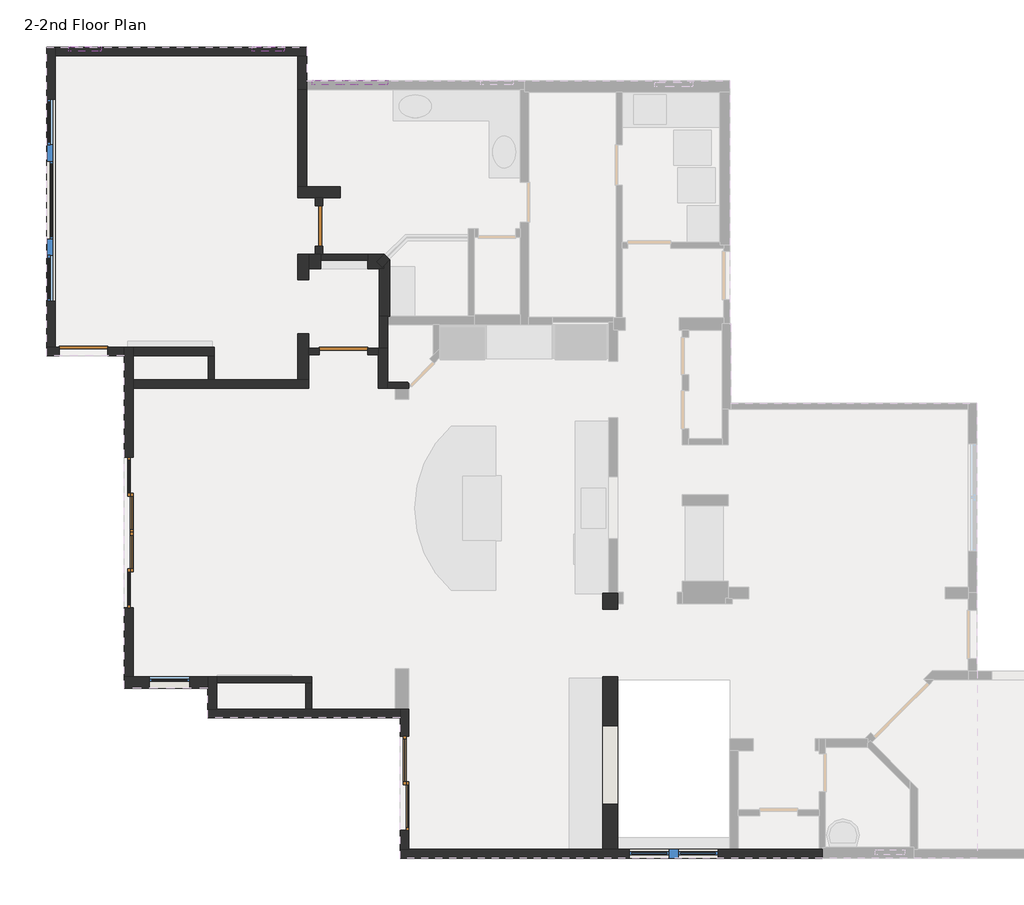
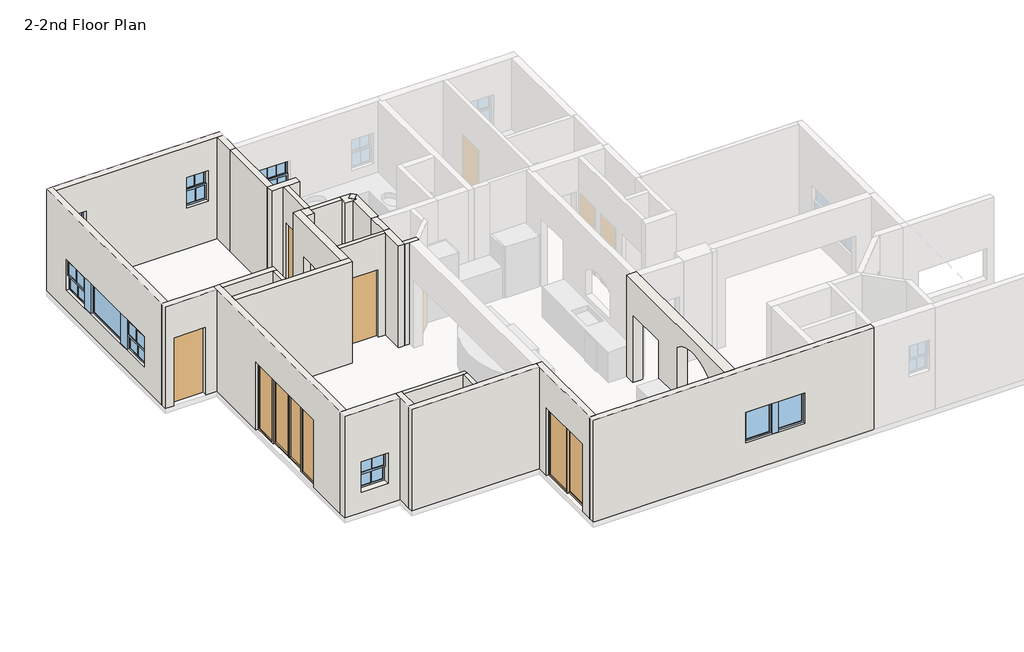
# One storey, part 1 of 3: 29 walls, 6 doors, 6 windows.
"""IFC4 building model written with IfcOpenShell, lengths in millimetres."""

from ifc_helpers import new_model, si_unit, frame, origin, place, context, project, spatial, polyline, circle_curve, outline, extrude, faceted_brep, transform, mapped, element, save
from ifc_brep_helpers import plane_surface, revolved_surface, advanced_brep
from components import door_eaf6c470, door_f2e01136, door_df503d46, door_63f27d76, door_1ca3bb58, door_1fb80474, window_7c996b03, window_ac6b56c1, window_c7df3585, window_351afe28, window_83dc67e6

model = new_model("IFC4")

# Units and contexts
model_context = context("Model", 3, world=origin())
ifc_project = project(units=[si_unit("LENGTHUNIT", "METRE", prefix="MILLI")], contexts=[model_context])

# Site, building, storey
site = spatial("IfcSite", under=ifc_project)
building = spatial("IfcBuilding", under=site)
storey = spatial("IfcBuildingStorey", under=building, Name="2-2nd Floor Plan", Elevation=3348.0)

# Doors
placement = place(None, origin())
door_shape = door_eaf6c470(model_context)
element("IfcDoor", 1, ObjectType="Door_1 : 3'-0\" X 6'-8\"", at=placement, inside=storey, context=model_context, shape_type="MappedRepresentation", body=[
    mapped(door_shape, transform((-1066.8, 9544.05, 3348.0), x_axis=(1.0, 0.0, 0.0), y_axis=(0.0, 1.0, 0.0), z_axis=(0.0, 0.0, 1.0))),
])
door_2_shape = door_f2e01136(model_context)
element("IfcDoor", 2, ObjectType="Door_1 : 3'-0\" X 6'-8\"", at=placement, inside=storey, context=model_context, shape_type="MappedRepresentation", body=[
    mapped(door_2_shape, transform((-5962.65, 9544.05, 3348.0), x_axis=(-1.0, 0.0, 0.0), y_axis=(0.0, -1.0, 0.0), z_axis=(0.0, 0.0, 1.0))),
])
door_3_shape = door_df503d46(model_context)
element("IfcDoor", 3, ObjectType="Door_3 : 4'-8\" X 6'-8\"", at=placement, inside=storey, context=model_context, shape_type="MappedRepresentation", body=[
    mapped(door_3_shape, transform((-5238.75, 6845.3, 3348.0), x_axis=(0.0, 1.0, 0.0), y_axis=(-1.0, 0.0, 0.0), z_axis=(0.0, 0.0, 1.0))),
])
door_4_shape = door_63f27d76(model_context)
element("IfcDoor", 4, ObjectType="Door_3 : 4'-8\" X 6'-8\"", at=placement, inside=storey, context=model_context, shape_type="MappedRepresentation", body=[
    mapped(door_4_shape, transform((-5238.75, 5422.9, 3348.0), x_axis=(0.0, -1.0, 0.0), y_axis=(1.0, 0.0, 0.0), z_axis=(0.0, 0.0, 1.0))),
])
door_5_shape = door_1ca3bb58(model_context)
element("IfcDoor", 5, ObjectType="Door_3 : 5'-10\" X 6'-8\"", at=placement, inside=storey, context=model_context, shape_type="MappedRepresentation", body=[
    mapped(door_5_shape, transform((-44.45, 1409.7, 3348.0), x_axis=(0.0, 1.0, 0.0), y_axis=(-1.0, 0.0, 0.0), z_axis=(0.0, 0.0, 1.0))),
])
door_6_shape = door_1fb80474(model_context)
element("IfcDoor", 6, ObjectType="Door_4 : 2'-6\" X 6'-8\"", at=placement, inside=storey, context=model_context, shape_type="MappedRepresentation", body=[
    mapped(door_6_shape, transform((-1520.825, 11912.4947939, 3348.0), x_axis=(0.0, 1.0, 0.0), y_axis=(-1.0, 0.0, 0.0), z_axis=(0.0, 0.0, 1.0))),
])

# Walls
element("IfcWall", 7, ObjectType="Wall_11\"", at=placement, inside=storey, context=model_context, shape_type="Brep", body=[
    faceted_brep([(-1720.85, 11099.8, 3348.0), (-1498.6, 11099.8, 3348.0), (-1498.6, 11099.8, 6396.0), (-1720.85, 11099.8, 6396.0), (-1720.85, 11379.2, 3348.0), (-1720.85, 11379.2, 6396.0), (-1593.85, 11379.2, 6396.0), (-1498.6, 11379.2, 6396.0), (-1498.6, 11379.2, 3348.0), (-1593.85, 11379.2, 3348.0), (-1498.6, 11264.9, 3348.0), (-1498.6, 11264.9, 6396.0)], [[[0, 1, 2, 3]], [[4, 5, 6, 7, 8, 9]], [[1, 0, 4, 9, 8, 10]], [[2, 1, 10, 8, 7, 11]], [[3, 2, 11, 7, 6, 5]], [[0, 3, 5, 4]]]),
])
element("IfcWall", 8, ObjectType="Wall_11\"", at=placement, inside=storey, context=model_context, shape_type="AdvancedBrep", body=[
    advanced_brep(
    [(3822.7, 165.1, 6396.0), (3822.7, 4984.6447939, 6396.0), (3822.7, 4984.6447939, 3348.0), (3822.7, 4686.1947939, 3348.0), (3822.7, 4686.1947939, 5380.0), (3822.7, 3416.1947939, 5380.0), (3822.7, 3416.1947939, 3348.0), (3822.7, 165.1, 3348.0), (3822.7, 1016.0, 5735.6), (3822.7, 1016.0, 4414.8), (3822.7, 2489.2, 4414.8), (3822.7, 2489.2, 5735.6), (4102.1, 4984.6447939, 6396.0), (4102.1, 4787.7947939, 6396.0), (4102.1, 165.1, 6396.0), (4102.1, 165.1, 3348.0), (4102.1, 3416.1947939, 3348.0), (4102.1, 3416.1947939, 5380.0), (4102.1, 4686.1947939, 5380.0), (4102.1, 4686.1947939, 3348.0), (4102.1, 4787.7947939, 3348.0), (4102.1, 4984.6447939, 3348.0), (4102.1, 1016.0, 4414.8), (4102.1, 1016.0, 5735.6), (4102.1, 2489.2, 5735.6), (4102.1, 2489.2, 4414.8), (3937.0, 4984.6447939, 3348.0), (3937.0, 4984.6447939, 6396.0)],
    [
        (0, 1),
        (1, 2),
        (2, 3),
        (3, 4),
        (4, 5),
        (5, 6),
        (6, 7),
        (7, 0),
        (8, 9),
        (9, 10),
        (10, 11),
        (11, 8, circle_curve(frame((3822.7, 1752.6, 4916.8562565), z_axis=(1.0, 0.0, 0.0), x_axis=(0.0, -1.0, 0.0)), 1101.3268713)),
        (12, 13),
        (13, 14),
        (14, 15),
        (15, 16),
        (16, 17),
        (17, 18),
        (18, 19),
        (19, 20),
        (20, 21),
        (21, 12),
        (22, 23),
        (23, 24, circle_curve(frame((4102.1, 1752.6, 4916.8562565), z_axis=(-1.0, 0.0, 0.0), x_axis=(0.0, -1.0, 0.0)), 1101.3268713)),
        (24, 25),
        (25, 22),
        (15, 7),
        (6, 16),
        (2, 26),
        (26, 21),
        (19, 3),
        (0, 14),
        (12, 27),
        (27, 1),
        (18, 4),
        (5, 17),
        (8, 23),
        (22, 9),
        (11, 24),
        (10, 25),
    ],
    [
        plane_surface(frame((3822.7, 5003.6947939, 3348.0), z_axis=(-1.0, 0.0, 0.0), x_axis=(0.0, -1.0, 0.0))),
        plane_surface(frame((4102.1, 5003.6947939, 3348.0), z_axis=(1.0, 0.0, 0.0), x_axis=(0.0, 1.0, 0.0))),
        plane_surface(frame((3822.7, 4984.6447939, 3348.0), z_axis=(0.0, 0.0, -1.0), x_axis=(1.0, 0.0, 0.0))),
        plane_surface(frame((3822.7, 82.55, 6396.0), z_axis=(0.0, 0.0, 1.0), x_axis=(1.0, 0.0, 0.0))),
        plane_surface(frame((3822.7, 4984.6447939, 6396.0), z_axis=(0.0, 1.0, 0.0), x_axis=(1.0, 0.0, 0.0))),
        plane_surface(frame((7693.6373882, 165.1, 3348.0), z_axis=(0.0, -1.0, 0.0), x_axis=(-1.0, 0.0, 0.0))),
        plane_surface(frame((3822.7, 4686.1947939, 3348.0), z_axis=(0.0, -1.0, 0.0), x_axis=(1.0, 0.0, 0.0))),
        plane_surface(frame((3822.7, 3416.1947939, 5380.0), z_axis=(0.0, 1.0, 0.0), x_axis=(1.0, 0.0, 0.0))),
        plane_surface(frame((3822.7, 1016.0, 4414.8), z_axis=(0.0, 1.0, 0.0), x_axis=(1.0, 0.0, 0.0))),
        revolved_surface(polyline([(3822.7, 651.2731286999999, 4916.8562565), (4102.1, 651.2731286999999, 4916.8562565)]), (4102.1, 1752.6, 4916.8562565), (-1.0, 0.0, 0.0)),
        plane_surface(frame((3822.7, 2489.2, 5735.6), z_axis=(0.0, -1.0, 0.0), x_axis=(1.0, 0.0, 0.0))),
        plane_surface(frame((3822.7, 2489.2, 4414.8), z_axis=(0.0, 0.0, 1.0), x_axis=(1.0, 0.0, 0.0))),
        plane_surface(frame((3822.7, 4686.1947939, 5380.0), z_axis=(0.0, 0.0, -1.0), x_axis=(1.0, 0.0, 0.0))),
    ],
    [
        (0, [[1, 2, 3, 4, 5, 6, 7, 8], [9, 10, 11, 12]]),
        (1, [[13, 14, 15, 16, 17, 18, 19, 20, 21, 22], [23, 24, 25, 26]]),
        (2, [[27, -7, 28, -16]]),
        (2, [[29, 30, -21, -20, 31, -3]]),
        (3, [[-1, 32, -14, -13, 33, 34]]),
        (4, [[-2, -34, -33, -22, -30, -29]]),
        (5, [[-8, -27, -15, -32]]),
        (6, [[-4, -31, -19, 35]]),
        (7, [[-6, 36, -17, -28]]),
        (8, [[37, -23, 38, -9]]),
        (9, [[-37, -12, 39, -24]]),
        (10, [[-39, -11, 40, -25]]),
        (11, [[-38, -26, -40, -10]]),
        (12, [[-5, -35, -18, -36]]),
    ],
),
])
element("IfcWall", 9, ObjectType="Wall_11\"", at=placement, inside=storey, context=model_context, shape_type="Brep", body=[
    faceted_brep([(-609.6, 11099.8, 3348.0), (-393.7, 11099.8, 3348.0), (-298.45, 11099.8, 3348.0), (-298.45, 11099.8, 6396.0), (-393.7, 11099.8, 6396.0), (-609.6, 11099.8, 6396.0), (-298.45, 11379.2, 3348.0), (-609.6, 11379.2, 3348.0), (-609.6, 11379.2, 6396.0), (-298.45, 11379.2, 6396.0), (-609.6, 11264.9, 3348.0), (-442.1340979, 11235.5159021, 3348.0), (-334.1840979, 11127.5659021, 3348.0), (-298.45, 11163.3, 3348.0), (-298.45, 11163.3, 6396.0), (-334.1840979, 11127.5659021, 6396.0), (-442.1340979, 11235.5159021, 6396.0), (-609.6, 11264.9, 6396.0)], [[[0, 1, 2, 3, 4, 5]], [[6, 7, 8, 9]], [[2, 1, 0, 10, 7, 6, 11, 12, 13]], [[3, 2, 13, 14]], [[5, 4, 3, 14, 15, 16, 9, 8, 17]], [[0, 5, 17, 8, 7, 10]], [[15, 12, 11, 16]], [[12, 15, 14, 13]], [[16, 11, 6, 9]]]),
])
element("IfcWall", 10, ObjectType="Wall_4.5\"", at=placement, inside=storey, context=model_context, shape_type="Brep", body=[
    faceted_brep([(-3454.4, 3302.0, 3348.0), (-1778.0, 3302.0, 3348.0), (-1663.7, 3302.0, 3348.0), (-1663.7, 3302.0, 6396.0), (-1778.0, 3302.0, 6396.0), (-3454.4, 3302.0, 6396.0), (-3454.4, 3416.3, 3348.0), (-3454.4, 3416.3, 6396.0), (-1663.7, 3416.3, 6396.0), (-1663.7, 3416.3, 3348.0)], [[[0, 1, 2, 3, 4, 5]], [[6, 7, 8, 9]], [[2, 1, 0, 6, 9]], [[5, 4, 3, 8, 7]], [[0, 5, 7, 6]], [[3, 2, 9, 8]]]),
])
element("IfcWall", 11, ObjectType="Wall_4.5\"", at=placement, inside=storey, context=model_context, shape_type="SweptSolid", body=[
    extrude(outline(polyline([(-1778.0, 2806.7), (-1778.0, 3302.0), (-1663.7, 3302.0), (-1663.7, 2806.7), (-1778.0, 2806.7)])), frame((0.0, 0.0, 3348.0), z_axis=(0.0, 0.0, 1.0), x_axis=(1.0, 0.0, 0.0)), (0.0, 0.0, 1.0), 3048.0),
])
element("IfcWall", 12, ObjectType="Wall_4.5\"", at=placement, inside=storey, context=model_context, shape_type="SweptSolid", body=[
    extrude(outline(polyline([(-3613.15, 9017.0), (-3613.15, 9461.5), (-3498.85, 9461.5), (-3498.85, 9017.0), (-3613.15, 9017.0)])), frame((0.0, 0.0, 3348.0), z_axis=(0.0, 0.0, 1.0), x_axis=(1.0, 0.0, 0.0)), (0.0, 0.0, 1.0), 3048.0),
])
element("IfcWall", 13, ObjectType="Wall_4.5\"", at=placement, inside=storey, context=model_context, shape_type="Brep", body=[
    faceted_brep([(-228.6, 8851.9, 3348.0), (-88.9, 8851.9, 3348.0), (165.1, 8851.9, 3348.0), (165.1, 8851.9, 6396.0), (-88.9, 8851.9, 6396.0), (-228.6, 8851.9, 6396.0), (-228.6, 8966.2, 6396.0), (117.7553898, 8966.2, 6396.0), (165.1, 8966.2, 6396.0), (165.1, 8966.2, 5380.0), (140.6573755, 8966.2, 5380.0), (140.6573755, 8966.2, 3348.0), (117.7553898, 8966.2, 3348.0), (-228.6, 8966.2, 3348.0), (165.1, 8941.7573755, 3348.0), (165.1, 8941.7573755, 5380.0)], [[[0, 1, 2, 3, 4, 5]], [[6, 7, 8, 9, 10, 11, 12, 13]], [[2, 1, 0, 13, 12, 11, 14]], [[5, 4, 3, 8, 7, 6]], [[0, 5, 6, 13]], [[3, 2, 14, 15, 9, 8]], [[15, 10, 9]], [[10, 15, 14, 11]]]),
])
element("IfcWall", 14, ObjectType="Wall_4.5\"", at=placement, inside=storey, context=model_context, shape_type="SweptSolid", body=[
    extrude(outline(polyline([(5380.0, -609.6), (3348.0, -609.6), (3348.0, -406.4), (6396.0, -406.4), (6396.0, -1720.85), (3348.0, -1720.85), (3348.0, -1524.0), (5380.0, -1524.0), (5380.0, -609.6)])), frame((0.0, 9486.9, 0.0), z_axis=(0.0, 1.0, 0.0), x_axis=(0.0, 0.0, 1.0)), (0.0, 0.0, 1.0), 114.3),
])
element("IfcWall", 15, ObjectType="Wall_4.5\"", at=placement, inside=storey, context=model_context, shape_type="Brep", body=[
    faceted_brep([(-1498.6, 11264.9, 3348.0), (-609.6, 11264.9, 3348.0), (-609.6, 11264.9, 6396.0), (-1498.6, 11264.9, 6396.0), (-1498.6, 11379.2, 3348.0), (-1498.6, 11379.2, 6396.0), (-1454.15, 11379.2, 6396.0), (-609.6, 11379.2, 6396.0), (-609.6, 11379.2, 3348.0), (-1454.15, 11379.2, 3348.0)], [[[0, 1, 2, 3]], [[4, 5, 6, 7, 8, 9]], [[1, 0, 4, 9, 8]], [[2, 1, 8, 7]], [[3, 2, 7, 6, 5]], [[0, 3, 5, 4]]]),
])
element("IfcWall", 16, ObjectType="Wall_5.5\"", at=placement, inside=storey, context=model_context, shape_type="Brep", body=[
    faceted_brep([(-1454.15, 12445.8947939, 6396.0), (-1454.15, 11379.2, 6396.0), (-1454.15, 11379.2, 3348.0), (-1454.15, 11531.4947939, 3348.0), (-1454.15, 11531.4947939, 5405.4), (-1454.15, 12293.4947939, 5405.4), (-1454.15, 12293.4947939, 3348.0), (-1454.15, 12445.8947939, 3348.0), (-1593.85, 11379.2, 6396.0), (-1593.85, 12445.8947939, 6396.0), (-1593.85, 12445.8947939, 3348.0), (-1593.85, 12293.4947939, 3348.0), (-1593.85, 12293.4947939, 5405.4), (-1593.85, 11531.4947939, 5405.4), (-1593.85, 11531.4947939, 3348.0), (-1593.85, 11379.2, 3348.0), (-1498.6, 11379.2, 3348.0), (-1498.6, 11379.2, 6396.0)], [[[0, 1, 2, 3, 4, 5, 6, 7]], [[8, 9, 10, 11, 12, 13, 14, 15]], [[10, 7, 6, 11]], [[2, 16, 15, 14, 3]], [[1, 0, 9, 8, 17]], [[2, 1, 17, 8, 15, 16]], [[0, 7, 10, 9]], [[5, 12, 11, 6]], [[12, 5, 4, 13]], [[13, 4, 3, 14]]]),
])
element("IfcWall", 17, ObjectType="Wall_6.5\"", at=placement, inside=storey, context=model_context, shape_type="Brep", body=[
    faceted_brep([(7956.55, 165.1, 3348.0), (7899.4, 165.1, 3348.0), (6375.4, 165.1, 3348.0), (6210.3, 165.1, 3348.0), (4102.1, 165.1, 3348.0), (3822.7, 165.1, 3348.0), (165.1, 165.1, 3348.0), (0.0, 165.1, 3348.0), (0.0, 165.1, 6396.0), (165.1, 165.1, 6396.0), (3822.7, 165.1, 6396.0), (4102.1, 165.1, 6396.0), (6210.3, 165.1, 6396.0), (6375.4, 165.1, 6396.0), (7899.4, 165.1, 6396.0), (7956.55, 165.1, 6396.0), (5994.4, 165.1, 5126.0), (4318.0, 165.1, 5126.0), (4318.0, 165.1, 4211.6), (5994.4, 165.1, 4211.6), (7956.55, 0.0, 3348.0), (7956.55, 0.0, 6396.0), (0.0, 0.0, 6396.0), (0.0, 0.0, 3348.0), (5994.4, 0.0, 5126.0), (5994.4, 0.0, 4211.6), (4318.0, 0.0, 4211.6), (4318.0, 0.0, 5126.0)], [[[0, 1, 2, 3, 4, 5, 6, 7, 8, 9, 10, 11, 12, 13, 14, 15], [16, 17, 18, 19]], [[20, 21, 22, 23], [24, 25, 26, 27]], [[7, 6, 5, 4, 3, 2, 1, 0, 20, 23]], [[15, 14, 13, 12, 11, 10, 9, 8, 22, 21]], [[0, 15, 21, 20]], [[8, 7, 23, 22]], [[25, 24, 16, 19]], [[26, 25, 19, 18]], [[27, 26, 18, 17]], [[24, 27, 17, 16]]]),
])
element("IfcWall", 18, ObjectType="Wall_6.5\"", at=placement, inside=storey, context=model_context, shape_type="Brep", body=[
    faceted_brep([(165.1, 2298.7, 5380.0), (165.1, 2298.7, 3348.0), (165.1, 2806.7, 3348.0), (165.1, 2806.7, 6396.0), (165.1, 165.1, 6396.0), (165.1, 165.1, 3348.0), (165.1, 520.7, 3348.0), (165.1, 520.7, 5380.0), (0.0, 2806.7, 3348.0), (0.0, 2641.6, 3348.0), (0.0, 2298.7, 3348.0), (0.0, 2298.7, 5380.0), (0.0, 520.7, 5380.0), (0.0, 520.7, 3348.0), (0.0, 165.1, 3348.0), (0.0, 165.1, 6396.0), (0.0, 2641.6, 6396.0), (0.0, 2806.7, 6396.0)], [[[0, 1, 2, 3, 4, 5, 6, 7]], [[8, 9, 10, 11, 12, 13, 14, 15, 16, 17]], [[6, 5, 14, 13]], [[2, 1, 10, 9, 8]], [[4, 3, 17, 16, 15]], [[5, 4, 15, 14]], [[3, 2, 8, 17]], [[13, 12, 7, 6]], [[11, 10, 1, 0]], [[12, 11, 0, 7]]]),
])
element("IfcWall", 19, ObjectType="Wall_6.5\"", at=placement, inside=storey, context=model_context, shape_type="Brep", body=[
    faceted_brep([(0.0, 2806.7, 3348.0), (-88.9, 2806.7, 3348.0), (-1663.7, 2806.7, 3348.0), (-1778.0, 2806.7, 3348.0), (-3454.4, 2806.7, 3348.0), (-3619.5, 2806.7, 3348.0), (-3619.5, 2806.7, 6396.0), (-3454.4, 2806.7, 6396.0), (-1778.0, 2806.7, 6396.0), (-1663.7, 2806.7, 6396.0), (-88.9, 2806.7, 6396.0), (0.0, 2806.7, 6396.0), (0.0, 2641.6, 3348.0), (0.0, 2641.6, 6396.0), (-3619.5, 2641.6, 6396.0), (-3619.5, 2641.6, 3348.0)], [[[0, 1, 2, 3, 4, 5, 6, 7, 8, 9, 10, 11]], [[12, 13, 14, 15]], [[5, 4, 3, 2, 1, 0, 12, 15]], [[11, 10, 9, 8, 7, 6, 14, 13]], [[0, 11, 13, 12]], [[6, 5, 15, 14]]]),
])
element("IfcWall", 20, ObjectType="Wall_6.5\"", at=placement, inside=storey, context=model_context, shape_type="Brep", body=[
    faceted_brep([(-3454.4, 2806.7, 3348.0), (-3454.4, 3302.0, 3348.0), (-3454.4, 3416.3, 3348.0), (-3454.4, 3416.3, 6396.0), (-3454.4, 3302.0, 6396.0), (-3454.4, 2806.7, 6396.0), (-3619.5, 2806.7, 3348.0), (-3619.5, 2806.7, 6396.0), (-3619.5, 3200.4, 6396.0), (-3619.5, 3416.3, 6396.0), (-3619.5, 3416.3, 3348.0), (-3619.5, 3200.4, 3348.0)], [[[0, 1, 2, 3, 4, 5]], [[6, 7, 8, 9, 10, 11]], [[2, 1, 0, 6, 11, 10]], [[5, 4, 3, 9, 8, 7]], [[0, 5, 7, 6]], [[3, 2, 10, 9]]]),
])
element("IfcWall", 21, ObjectType="Wall_6.5\"", at=placement, inside=storey, context=model_context, shape_type="Brep", body=[
    faceted_brep([(-5029.2, 9626.6, 6396.0), (-5029.2, 9461.5, 6396.0), (-5029.2, 9017.0, 6396.0), (-5029.2, 8851.9, 6396.0), (-5029.2, 3416.3, 6396.0), (-5029.2, 3416.3, 3348.0), (-5029.2, 4711.7, 3348.0), (-5029.2, 4711.7, 5380.0), (-5029.2, 7556.5, 5380.0), (-5029.2, 7556.5, 3348.0), (-5029.2, 8851.9, 3348.0), (-5029.2, 9017.0, 3348.0), (-5029.2, 9461.5, 3348.0), (-5029.2, 9626.6, 3348.0), (-5194.3, 3416.3, 6396.0), (-5194.3, 9461.5, 6396.0), (-5194.3, 9626.6, 6396.0), (-5194.3, 9626.6, 3348.0), (-5194.3, 9461.5, 3348.0), (-5194.3, 7556.5, 3348.0), (-5194.3, 7556.5, 5380.0), (-5194.3, 4711.7, 5380.0), (-5194.3, 4711.7, 3348.0), (-5194.3, 3416.3, 3348.0)], [[[0, 1, 2, 3, 4, 5, 6, 7, 8, 9, 10, 11, 12, 13]], [[14, 15, 16, 17, 18, 19, 20, 21, 22, 23]], [[5, 23, 22, 6]], [[17, 13, 12, 11, 10, 9, 19, 18]], [[4, 3, 2, 1, 0, 16, 15, 14]], [[5, 4, 14, 23]], [[0, 13, 17, 16]], [[8, 20, 19, 9]], [[20, 8, 7, 21]], [[21, 7, 6, 22]]]),
])
element("IfcWall", 22, ObjectType="Wall_6.5\"", at=placement, inside=storey, context=model_context, shape_type="Brep", body=[
    faceted_brep([(-6419.85, 9626.6, 5380.0), (-6419.85, 9626.6, 3348.0), (-6496.05, 9626.6, 3348.0), (-6661.15, 9626.6, 3348.0), (-6661.15, 9626.6, 6396.0), (-6496.05, 9626.6, 6396.0), (-5194.3, 9626.6, 6396.0), (-5194.3, 9626.6, 3348.0), (-5505.45, 9626.6, 3348.0), (-5505.45, 9626.6, 5380.0), (-6661.15, 9461.5, 3348.0), (-6419.85, 9461.5, 3348.0), (-6419.85, 9461.5, 5380.0), (-5505.45, 9461.5, 5380.0), (-5505.45, 9461.5, 3348.0), (-5194.3, 9461.5, 3348.0), (-5194.3, 9461.5, 6396.0), (-6661.15, 9461.5, 6396.0)], [[[0, 1, 2, 3, 4, 5, 6, 7, 8, 9]], [[10, 11, 12, 13, 14, 15, 16, 17]], [[8, 7, 15, 14]], [[3, 2, 1, 11, 10]], [[6, 5, 4, 17, 16]], [[7, 6, 16, 15]], [[4, 3, 10, 17]], [[12, 11, 1, 0]], [[13, 12, 0, 9]], [[14, 13, 9, 8]]]),
])
element("IfcWall", 23, ObjectType="Wall_6.5\"", at=placement, inside=storey, context=model_context, shape_type="Brep", body=[
    faceted_brep([(-6496.05, 9626.6, 3348.0), (-6496.05, 15113.0, 3348.0), (-6496.05, 15278.1, 3348.0), (-6496.05, 15278.1, 6396.0), (-6496.05, 15113.0, 6396.0), (-6496.05, 9626.6, 6396.0), (-6496.05, 10490.2, 4878.35), (-6496.05, 14300.2, 4878.35), (-6496.05, 14300.2, 3963.95), (-6496.05, 10490.2, 3963.95), (-6661.15, 9626.6, 3348.0), (-6661.15, 9626.6, 6396.0), (-6661.15, 15278.1, 6396.0), (-6661.15, 15278.1, 3348.0), (-6661.15, 10490.2, 4878.35), (-6661.15, 10490.2, 3963.95), (-6661.15, 14300.2, 3963.95), (-6661.15, 14300.2, 4878.35)], [[[0, 1, 2, 3, 4, 5], [6, 7, 8, 9]], [[10, 11, 12, 13], [14, 15, 16, 17]], [[2, 1, 0, 10, 13]], [[5, 4, 3, 12, 11]], [[0, 5, 11, 10]], [[3, 2, 13, 12]], [[15, 14, 6, 9]], [[16, 15, 9, 8]], [[17, 16, 8, 7]], [[14, 17, 7, 6]]]),
])
element("IfcWall", 24, ObjectType="Wall_6.5\"", at=placement, inside=storey, context=model_context, shape_type="Brep", body=[
    faceted_brep([(-6496.05, 15113.0, 3348.0), (-1924.05, 15113.0, 3348.0), (-1758.95, 15113.0, 3348.0), (-1758.95, 15113.0, 6396.0), (-1924.05, 15113.0, 6396.0), (-6496.05, 15113.0, 6396.0), (-2787.65, 15113.0, 5481.6), (-2178.05, 15113.0, 5481.6), (-2178.05, 15113.0, 4567.2), (-2787.65, 15113.0, 4567.2), (-6242.05, 15113.0, 5481.6), (-5632.45, 15113.0, 5481.6), (-5632.45, 15113.0, 4567.2), (-6242.05, 15113.0, 4567.2), (-6496.05, 15278.1, 3348.0), (-6496.05, 15278.1, 6396.0), (-1758.95, 15278.1, 6396.0), (-1758.95, 15278.1, 3348.0), (-2787.65, 15278.1, 5481.6), (-2787.65, 15278.1, 4567.2), (-2178.05, 15278.1, 4567.2), (-2178.05, 15278.1, 5481.6), (-6242.05, 15278.1, 5481.6), (-6242.05, 15278.1, 4567.2), (-5632.45, 15278.1, 4567.2), (-5632.45, 15278.1, 5481.6)], [[[0, 1, 2, 3, 4, 5], [6, 7, 8, 9], [10, 11, 12, 13]], [[14, 15, 16, 17], [18, 19, 20, 21], [22, 23, 24, 25]], [[2, 1, 0, 14, 17]], [[5, 4, 3, 16, 15]], [[0, 5, 15, 14]], [[3, 2, 17, 16]], [[19, 18, 6, 9]], [[20, 19, 9, 8]], [[21, 20, 8, 7]], [[18, 21, 7, 6]], [[23, 22, 10, 13]], [[24, 23, 13, 12]], [[25, 24, 12, 11]], [[22, 25, 11, 10]]]),
])
element("IfcWall", 25, ObjectType="Wall_6.5\"", at=placement, inside=storey, context=model_context, shape_type="Brep", body=[
    faceted_brep([(-1924.05, 15113.0, 3348.0), (-1924.05, 14477.8947939, 3348.0), (-1924.05, 14477.8947939, 6396.0), (-1924.05, 15113.0, 6396.0), (-1758.95, 15113.0, 3348.0), (-1758.95, 15113.0, 6396.0), (-1758.95, 14642.9947939, 6396.0), (-1758.95, 14477.8947939, 6396.0), (-1758.95, 14477.8947939, 3348.0), (-1758.95, 14642.9947939, 3348.0)], [[[0, 1, 2, 3]], [[4, 5, 6, 7, 8, 9]], [[1, 0, 4, 9, 8]], [[3, 2, 7, 6, 5]], [[0, 3, 5, 4]], [[2, 1, 8, 7]]]),
])
element("IfcWall", 26, ObjectType="Wall_6.5\"", at=placement, inside=storey, context=model_context, shape_type="Brep", body=[
    faceted_brep([(-5029.2, 9461.5, 3348.0), (-3613.15, 9461.5, 3348.0), (-3498.85, 9461.5, 3348.0), (-3498.85, 9461.5, 6396.0), (-3613.15, 9461.5, 6396.0), (-5029.2, 9461.5, 6396.0), (-5029.2, 9626.6, 3348.0), (-5029.2, 9626.6, 6396.0), (-3498.85, 9626.6, 6396.0), (-3498.85, 9626.6, 3348.0)], [[[0, 1, 2, 3, 4, 5]], [[6, 7, 8, 9]], [[2, 1, 0, 6, 9]], [[5, 4, 3, 8, 7]], [[0, 5, 7, 6]], [[3, 2, 9, 8]]]),
])
element("IfcWall", 27, ObjectType="Wall_6.5\"", at=placement, inside=storey, context=model_context, shape_type="Brep", body=[
    faceted_brep([(-5029.2, 8851.9, 3348.0), (-1720.85, 8851.9, 3348.0), (-1720.85, 8851.9, 6396.0), (-5029.2, 8851.9, 6396.0), (-5029.2, 9017.0, 3348.0), (-5029.2, 9017.0, 6396.0), (-3613.15, 9017.0, 6396.0), (-3498.85, 9017.0, 6396.0), (-1924.05, 9017.0, 6396.0), (-1720.85, 9017.0, 6396.0), (-1720.85, 9017.0, 3348.0), (-1924.05, 9017.0, 3348.0), (-3498.85, 9017.0, 3348.0), (-3613.15, 9017.0, 3348.0)], [[[0, 1, 2, 3]], [[4, 5, 6, 7, 8, 9, 10, 11, 12, 13]], [[1, 0, 4, 13, 12, 11, 10]], [[3, 2, 9, 8, 7, 6, 5]], [[0, 3, 5, 4]], [[2, 1, 10, 9]]]),
])
element("IfcWall", 28, ObjectType="Wall_6.5\"", at=placement, inside=storey, context=model_context, shape_type="SweptSolid", body=[
    extrude(outline(polyline([(-1758.95, 14477.8947939), (-1758.95, 12649.0947939), (-1924.05, 12649.0947939), (-1924.05, 14477.8947939), (-1758.95, 14477.8947939)])), frame((0.0, 0.0, 3348.0), z_axis=(0.0, 0.0, 1.0), x_axis=(1.0, 0.0, 0.0)), (0.0, 0.0, 1.0), 3048.0),
])
element("IfcWall", 29, ObjectType="Wall_6.5\"", at=placement, inside=storey, context=model_context, shape_type="Brep", body=[
    faceted_brep([(-228.6, 9601.2, 3348.0), (-228.6, 10045.7, 3348.0), (-228.6, 10210.8, 3348.0), (-228.6, 10210.8, 6396.0), (-228.6, 10045.7, 6396.0), (-228.6, 9601.2, 6396.0), (-393.7, 9601.2, 3348.0), (-393.7, 9601.2, 6396.0), (-393.7, 10210.8, 6396.0), (-393.7, 10210.8, 3348.0)], [[[0, 1, 2, 3, 4, 5]], [[6, 7, 8, 9]], [[2, 1, 0, 6, 9]], [[5, 4, 3, 8, 7]], [[0, 5, 7, 6]], [[3, 2, 9, 8]]]),
])
element("IfcWall", 30, ObjectType="Wall_7\"", at=placement, inside=storey, context=model_context, shape_type="Brep", body=[
    faceted_brep([(-228.6, 8851.9, 3348.0), (-228.6, 8966.2, 3348.0), (-228.6, 9601.2, 3348.0), (-228.6, 9601.2, 6396.0), (-228.6, 8966.2, 6396.0), (-228.6, 8851.9, 6396.0), (-406.4, 8851.9, 3348.0), (-406.4, 8851.9, 6396.0), (-406.4, 9486.9, 6396.0), (-406.4, 9601.2, 6396.0), (-406.4, 9601.2, 3348.0), (-406.4, 9486.9, 3348.0), (-393.7, 9601.2, 3348.0), (-393.7, 9601.2, 6396.0)], [[[0, 1, 2, 3, 4, 5]], [[6, 7, 8, 9, 10, 11]], [[2, 1, 0, 6, 11, 10, 12]], [[5, 4, 3, 13, 9, 8, 7]], [[0, 5, 7, 6]], [[3, 2, 12, 10, 9, 13]]]),
])
element("IfcWall", 31, ObjectType="Wall_8\"", at=placement, inside=storey, context=model_context, shape_type="Brep", body=[
    faceted_brep([(-1720.85, 9017.0, 3348.0), (-1720.85, 9486.9, 3348.0), (-1720.85, 9601.2, 3348.0), (-1720.85, 9880.6, 3348.0), (-1720.85, 9880.6, 5380.0), (-1720.85, 10896.6, 5380.0), (-1720.85, 10896.6, 3348.0), (-1720.85, 11099.8, 3348.0), (-1720.85, 11379.2, 3348.0), (-1720.85, 11379.2, 6396.0), (-1720.85, 11099.8, 6396.0), (-1720.85, 9601.2, 6396.0), (-1720.85, 9486.9, 6396.0), (-1720.85, 9017.0, 6396.0), (-1924.05, 9880.6, 5380.0), (-1924.05, 9880.6, 3348.0), (-1924.05, 9017.0, 3348.0), (-1924.05, 9017.0, 6396.0), (-1924.05, 11379.2, 6396.0), (-1924.05, 11379.2, 3348.0), (-1924.05, 10896.6, 3348.0), (-1924.05, 10896.6, 5380.0)], [[[0, 1, 2, 3, 4, 5, 6, 7, 8, 9, 10, 11, 12, 13]], [[14, 15, 16, 17, 18, 19, 20, 21]], [[0, 13, 17, 16]], [[9, 8, 19, 18]], [[20, 19, 8, 7, 6]], [[16, 15, 3, 2, 1, 0]], [[13, 12, 11, 10, 9, 18, 17]], [[4, 3, 15, 14]], [[5, 4, 14, 21]], [[6, 5, 21, 20]]]),
])
element("IfcWall", 32, ObjectType="Wall_8\"", at=placement, inside=storey, context=model_context, shape_type="Brep", body=[
    faceted_brep([(-1123.95, 12649.0947939, 3348.0), (-1758.95, 12649.0947939, 3348.0), (-1924.05, 12649.0947939, 3348.0), (-1924.05, 12649.0947939, 6396.0), (-1758.95, 12649.0947939, 6396.0), (-1123.95, 12649.0947939, 6396.0), (-1123.95, 12445.8947939, 3348.0), (-1123.95, 12445.8947939, 6396.0), (-1454.15, 12445.8947939, 6396.0), (-1593.85, 12445.8947939, 6396.0), (-1924.05, 12445.8947939, 6396.0), (-1924.05, 12445.8947939, 3348.0), (-1593.85, 12445.8947939, 3348.0), (-1454.15, 12445.8947939, 3348.0)], [[[0, 1, 2, 3, 4, 5]], [[6, 7, 8, 9, 10, 11, 12, 13]], [[2, 1, 0, 6, 13, 12, 11]], [[5, 4, 3, 10, 9, 8, 7]], [[0, 5, 7, 6]], [[3, 2, 11, 10]]]),
])
element("IfcWall", 33, ObjectType="Wall_8\"", at=placement, inside=storey, context=model_context, shape_type="Brep", body=[
    faceted_brep([(-442.1340979, 11235.5159021, 3348.0), (-334.1840979, 11127.5659021, 3348.0), (-334.1840979, 11127.5659021, 6396.0), (-442.1340979, 11235.5159021, 6396.0), (-298.45, 11379.2, 3348.0), (-298.45, 11379.2, 6396.0), (-190.5, 11271.25, 6396.0), (-190.5, 11271.25, 3348.0), (-298.45, 11163.3, 3348.0), (-298.45, 11163.3, 6396.0)], [[[0, 1, 2, 3]], [[4, 5, 6, 7]], [[1, 0, 4, 7, 8]], [[2, 1, 8, 7, 6, 9]], [[3, 2, 9, 6, 5]], [[0, 3, 5, 4]]]),
])
element("IfcWall", 34, ObjectType="Wall_8\"", at=placement, inside=storey, context=model_context, shape_type="Brep", body=[
    faceted_brep([(-393.7, 10210.8, 3348.0), (-393.7, 10210.8, 6396.0), (-393.7, 11099.8, 6396.0), (-393.7, 11099.8, 3348.0), (-190.5, 10210.8, 3348.0), (-190.5, 11271.25, 3348.0), (-190.5, 11271.25, 6396.0), (-190.5, 10210.8, 6396.0), (-228.6, 10210.8, 3348.0), (-298.45, 11099.8, 3348.0), (-298.45, 11163.3, 3348.0), (-298.45, 11163.3, 6396.0), (-298.45, 11099.8, 6396.0), (-228.6, 10210.8, 6396.0)], [[[0, 1, 2, 3]], [[4, 5, 6, 7]], [[5, 4, 8, 0, 3, 9, 10]], [[7, 6, 11, 12, 2, 1, 13]], [[1, 0, 8, 4, 7, 13]], [[6, 5, 10, 11]], [[12, 9, 3, 2]], [[9, 12, 11, 10]]]),
])
element("IfcWall", 35, ObjectType="Wall_8.5\"", at=placement, inside=storey, context=model_context, shape_type="Brep", body=[
    faceted_brep([(-3619.5, 3416.3, 3348.0), (-5029.2, 3416.3, 3348.0), (-5194.3, 3416.3, 3348.0), (-5194.3, 3416.3, 6396.0), (-5029.2, 3416.3, 6396.0), (-3619.5, 3416.3, 6396.0), (-4724.4, 3416.3, 4872.0), (-4724.4, 3416.3, 3957.6), (-3962.4, 3416.3, 3957.6), (-3962.4, 3416.3, 4872.0), (-3619.5, 3200.4, 3348.0), (-3619.5, 3200.4, 6396.0), (-5194.3, 3200.4, 6396.0), (-5194.3, 3200.4, 3348.0), (-4724.4, 3200.4, 4872.0), (-3962.4, 3200.4, 4872.0), (-3962.4, 3200.4, 3957.6), (-4724.4, 3200.4, 3957.6)], [[[0, 1, 2, 3, 4, 5], [6, 7, 8, 9]], [[10, 11, 12, 13], [14, 15, 16, 17]], [[2, 1, 0, 10, 13]], [[5, 4, 3, 12, 11]], [[0, 5, 11, 10]], [[3, 2, 13, 12]], [[7, 6, 14, 17]], [[8, 7, 17, 16]], [[9, 8, 16, 15]], [[6, 9, 15, 14]]]),
])

# Windows
window_shape = window_7c996b03(model_context)
element("IfcWindow", 36, ObjectType="Window_4 : 2'-0\" x 3'-0\"", at=placement, inside=storey, context=model_context, shape_type="MappedRepresentation", body=[
    mapped(window_shape, transform((-2482.85, 15195.55, 3729.0), x_axis=(-1.0, 0.0, 0.0), y_axis=(0.0, -1.0, 0.0), z_axis=(0.0, 0.0, 1.0))),
])
element("IfcWindow", 37, ObjectType="Window_4 : 2'-0\" x 3'-0\"", at=placement, inside=storey, context=model_context, shape_type="MappedRepresentation", body=[
    mapped(window_shape, transform((-5937.25, 15195.55, 3729.0), x_axis=(-1.0, 0.0, 0.0), y_axis=(0.0, -1.0, 0.0), z_axis=(0.0, 0.0, 1.0))),
])
window_2_shape = window_ac6b56c1(model_context)
element("IfcWindow", 38, ObjectType="Window_4 : 2'-6\" x 3'-0\"", at=placement, inside=storey, context=model_context, shape_type="MappedRepresentation", body=[
    mapped(window_2_shape, transform((-4343.4, 3308.35, 3119.4), x_axis=(-1.0, 0.0, 0.0), y_axis=(0.0, -1.0, 0.0), z_axis=(0.0, 0.0, 1.0))),
])
window_3_shape = window_c7df3585(model_context)
element("IfcWindow", 39, ObjectType="Window_6 : 12'-6\" x 3'-0\"", at=placement, inside=storey, context=model_context, shape_type="MappedRepresentation", body=[
    mapped(window_3_shape, transform((-6578.6, 12395.2, 3125.75), x_axis=(0.0, -1.0, 0.0), y_axis=(1.0, 0.0, 0.0), z_axis=(0.0, 0.0, 1.0))),
])
window_4_shape = window_351afe28(model_context)
element("IfcWindow", 40, ObjectType="Window_7 : 2'-10\" x 3'-0\"", at=placement, inside=storey, context=model_context, shape_type="MappedRepresentation", body=[
    mapped(window_4_shape, transform((-939.8, 14560.4447939, 3729.0), x_axis=(-1.0, 0.0, 0.0), y_axis=(0.0, -1.0, 0.0), z_axis=(0.0, 0.0, 1.0))),
])
window_5_shape = window_83dc67e6(model_context)
element("IfcWindow", 41, ObjectType="Window_8 : 5'-6\" x 3'-0\"", at=placement, inside=storey, context=model_context, shape_type="MappedRepresentation", body=[
    mapped(window_5_shape, transform((5143.5, 82.55, 3373.4), x_axis=(1.0, 0.0, 0.0), y_axis=(0.0, 1.0, 0.0), z_axis=(0.0, 0.0, 1.0))),
])

save(model, "model.ifc")
